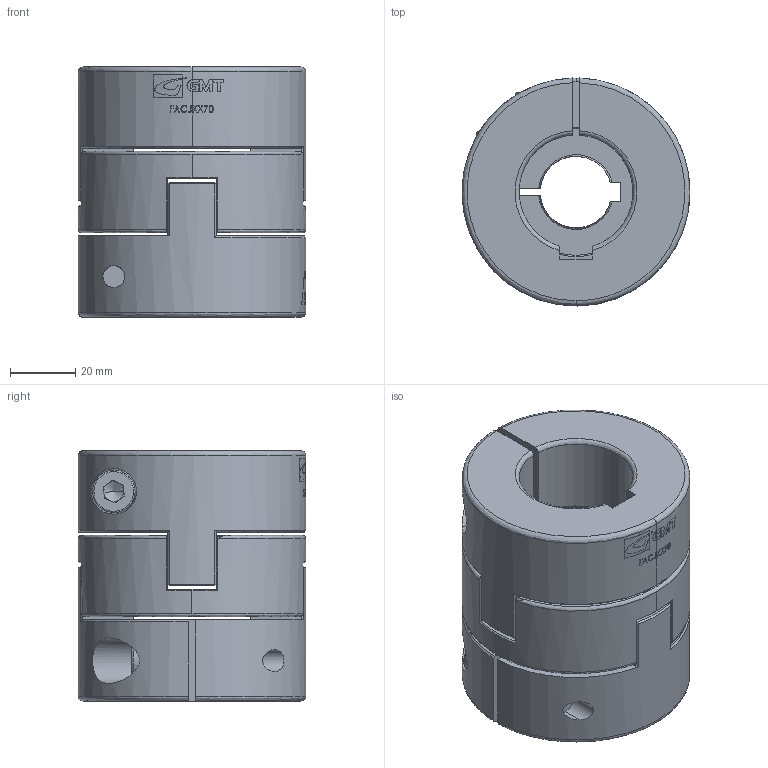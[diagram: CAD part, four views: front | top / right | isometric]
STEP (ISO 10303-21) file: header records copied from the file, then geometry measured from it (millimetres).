
FILE_DESCRIPTION (( 'STEP AP203' ), '1' );
FILE_NAME ('FACJWK70.STEP', '2008-04-04T08:55:19', ( '陳志豪' ), ( '高明鐵企業股份有限公司' ), 'SwSTEP 2.0', 'SolidWorks 2007', '' );
FILE_SCHEMA (( 'CONFIG_CONTROL_DESIGN' ));
Length unit declared in the file: millimetre
Products named in the file (1): FACJWK70
Bounding box: 70 x 70 x 77 mm (x, y, z)
Surface area: 48915.7 mm2 (no closed solid volume)
Topology: 0 solids, 6 shells, 269 faces, 902 edges, 643 vertices
Faces by surface type: plane 110, bspline 69, cylinder 61, cone 29
Entity records: 15723 total; most frequent: CARTESIAN_POINT 9021, ORIENTED_EDGE 1703, EDGE_CURVE 887, DIRECTION 834, VERTEX_POINT 639, B_SPLINE_CURVE_WITH_KNOTS 520, EDGE_LOOP 306, AXIS2_PLACEMENT_3D 283
